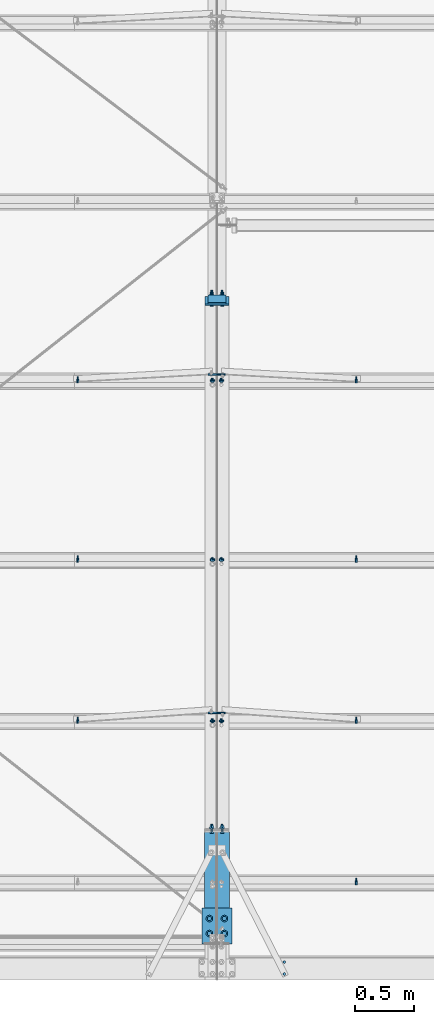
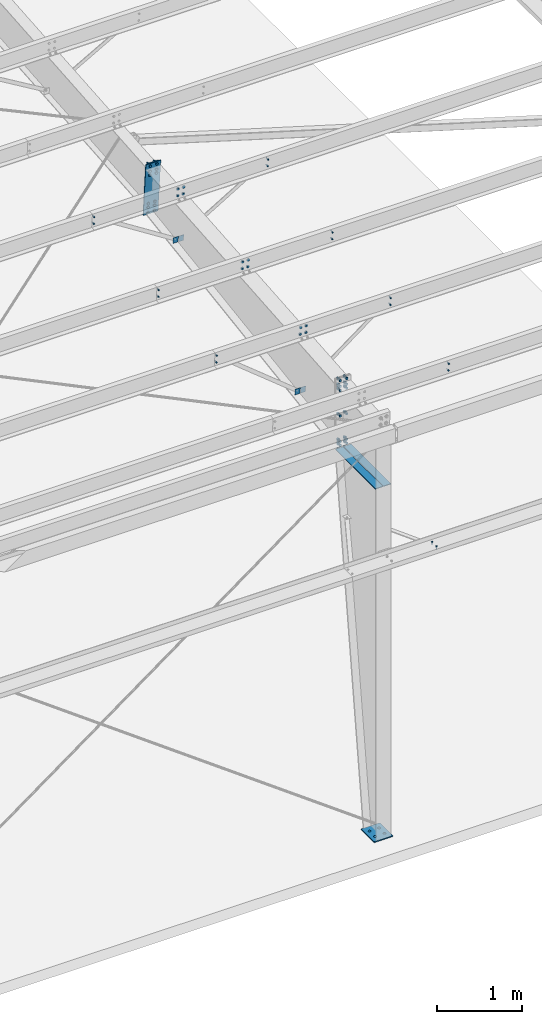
# One storey, part 102 of 185: 20 mechanical fasteners, 9 discrete accessories, 11 elements without a shape of their own.
"""IFC2X3 building model written with IfcOpenShell, lengths in millimetres."""

from ifc_helpers import new_model, si_unit, frame, origin_with_axes, origin_2d_with_axis, place, context, subcontext, project, spatial, polyline, rectangle, circle, outline, extrude, source, transform, mapped, material, type_object, element, aggregate, save


model = new_model("IFC2X3")

# Units and contexts
model_context = context("Model", 3, precision=1e-05, world=origin_with_axes())
body_context = subcontext(model_context, "Body", "Model", "MODEL_VIEW")
ifc_project = project(units=[si_unit("LENGTHUNIT", "METRE", prefix="MILLI"), si_unit("AREAUNIT", "SQUARE_METRE"), si_unit("VOLUMEUNIT", "CUBIC_METRE"), si_unit("MASSUNIT", "GRAM", prefix="KILO"), si_unit("TIMEUNIT", "SECOND"), si_unit("PLANEANGLEUNIT", "RADIAN"), si_unit("SOLIDANGLEUNIT", "STERADIAN"), si_unit("THERMODYNAMICTEMPERATUREUNIT", "DEGREE_CELSIUS"), si_unit("LUMINOUSINTENSITYUNIT", "LUMEN")], contexts=[model_context])

# Site, building, storey
site_placement = place(None, origin_with_axes())
site = spatial("IfcSite", under=ifc_project, at=site_placement, Name="Undefined", CompositionType="ELEMENT")
building_placement = place(site_placement, origin_with_axes())
building = spatial("IfcBuilding", under=site, at=building_placement, Name="Undefined", CompositionType="ELEMENT")
storey_placement = place(building_placement, origin_with_axes())
storey = spatial("IfcBuildingStorey", under=building, at=storey_placement, Name="Undefined", CompositionType="ELEMENT", Elevation=0.0)

# Assembly, discrete accessories
assembly_1_placement = place(storey_placement, origin_with_axes())
assembly_1 = element("IfcElementAssembly", 1, at=assembly_1_placement, inside=storey, Name="Steel Assembly", AssemblyPlace="NOTDEFINED", PredefinedType="RIGID_FRAME")
ifc_material_1 = material(Name="STEEL/55")
discrete_accessory_type_1 = type_object("IfcDiscreteAccessoryType", Name="Stiff")
discrete_accessory_1_placement = place(assembly_1_placement, frame((37773.76875, 312.674, 5067.48165112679), z_axis=(-1.0, 0.0, 0.0), x_axis=(0.0, 1.0, 0.0)))
discrete_accessory_1 = element("IfcDiscreteAccessory", 2, at=discrete_accessory_1_placement, type_object=discrete_accessory_type_1, material=ifc_material_1, Name="Stiff", ObjectType="FL3/8\"X4\"", context=body_context, shape_type="SweptSolid", body=[
    extrude(rectangle(XDim=9.525, YDim=101.6, at=origin_2d_with_axis()), frame((939.799999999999, 0.0, 0.0), z_axis=(-1.0, 0.0, 0.0), x_axis=(0.0, -1.0, 0.0)), (0.0, 0.0, 1.0), 939.8),
])
discrete_accessory_2_placement = place(assembly_1_placement, frame((37664.23125, 312.674, 5067.48165112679), z_axis=(-1.0, 0.0, 0.0), x_axis=(0.0, 1.0, 0.0)))
discrete_accessory_2 = element("IfcDiscreteAccessory", 3, at=discrete_accessory_2_placement, type_object=discrete_accessory_type_1, material=ifc_material_1, Name="Stiff", ObjectType="FL3/8\"X4\"", context=body_context, shape_type="SweptSolid", body=[
    extrude(rectangle(XDim=9.525, YDim=101.6, at=origin_2d_with_axis()), frame((939.799999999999, 0.0, 0.0), z_axis=(-1.0, 0.0, 0.0), x_axis=(0.0, -1.0, 0.0)), (0.0, 0.0, 1.0), 939.8),
])

# Assembly, mechanical fastener
assembly_2_placement = place(storey_placement, origin_with_axes())
assembly_2 = element("IfcElementAssembly", 4, at=assembly_2_placement, inside=storey, Name="Steel Assembly", AssemblyPlace="NOTDEFINED", PredefinedType="RIGID_FRAME")
ifc_material_2 = material(Name="Undefined")
discrete_accessory_type_2 = type_object("IfcDiscreteAccessoryType", Name="Bolt assembly")
shared_shape_1 = source(origin_with_axes(), body_context, "Body", "SweptSolid", [
    extrude(circle(Radius=7.14374971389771, at=origin_2d_with_axis()), frame((0.0, -1.59000001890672, 0.0), z_axis=(0.0, 1.0, 0.0), x_axis=(1.0, 0.0, 0.0)), (0.0, 0.0, 1.0), 3.3),
    extrude(circle(Radius=13.4937496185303, at=origin_2d_with_axis()), frame((0.0, -5.5587500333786, 0.0), z_axis=(0.0, 1.0, 0.0), x_axis=(1.0, 0.0, 0.0)), (0.0, 0.0, 1.0), 4.0),
    extrude(circle(Radius=22.2250003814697, at=origin_2d_with_axis()), frame((0.0, 1.5900000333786, 0.0), z_axis=(0.0, 1.0, 0.0), x_axis=(1.0, 0.0, 0.0)), (0.0, 0.0, 1.0), 7.9),
    extrude(outline(polyline([(12.8316099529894, 0.0), (6.4158049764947, 11.1125001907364), (-6.4158049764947, 11.1125001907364), (-12.8316099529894, 0.0), (-6.4158049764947, -11.1125001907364), (6.4158049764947, -11.1125001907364), (12.8316099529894, 0.0)])), frame((0.0, 9.5275000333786, 0.0), z_axis=(0.0, 1.0, 0.0), x_axis=(1.0, 0.0, 0.0)), (0.0, 0.0, 1.0), 12.3),
])
mechanical_fastener_1_placement = place(assembly_2_placement, frame((37757.1, 2185.7239412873, 6227.16757842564), z_axis=(1.0, 0.0, 0.0), x_axis=(0.0, 0.0830454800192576, -0.996545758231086)))
mechanical_fastener_1 = element("IfcMechanicalFastener", 5, at=mechanical_fastener_1_placement, type_object=discrete_accessory_type_2, material=ifc_material_2, Name="Bolt assembly", NominalDiameter=12.6999998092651, NominalLength=38.0999984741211, context=body_context, shape_type="MappedRepresentation", body=[
    mapped(shared_shape_1, transform((0.0, 0.0, 0.0))),
    mapped(shared_shape_1, transform((101.599998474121, 0.0, 0.0))),
])
aggregate(assembly_2, [mechanical_fastener_1])

assembly_3_placement = place(storey_placement, origin_with_axes())
assembly_3 = element("IfcElementAssembly", 6, at=assembly_3_placement, inside=storey, Name="Steel Assembly", AssemblyPlace="NOTDEFINED", PredefinedType="RIGID_FRAME")
mechanical_fastener_2_placement = place(assembly_3_placement, frame((37680.9, 2185.7239412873, 6227.16757842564), z_axis=(1.0, 0.0, 0.0), x_axis=(0.0, 0.0830454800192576, -0.996545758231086)))
mechanical_fastener_2 = element("IfcMechanicalFastener", 7, at=mechanical_fastener_2_placement, type_object=discrete_accessory_type_2, material=ifc_material_2, Name="Bolt assembly", NominalDiameter=12.6999998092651, NominalLength=38.0999984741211, context=body_context, shape_type="MappedRepresentation", body=[
    mapped(shared_shape_1, transform((0.0, 0.0, 0.0))),
    mapped(shared_shape_1, transform((101.599998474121, 0.0, 0.0))),
])

assembly_4_placement = place(storey_placement, origin_with_axes())
assembly_4 = element("IfcElementAssembly", 8, at=assembly_4_placement, inside=storey, Name="Steel Assembly", AssemblyPlace="NOTDEFINED", PredefinedType="RIGID_FRAME")
mechanical_fastener_3_placement = place(assembly_4_placement, frame((37757.1, 3552.58610327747, 6341.07275882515), z_axis=(1.0, 0.0, 0.0), x_axis=(0.0, 0.0830454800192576, -0.996545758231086)))
mechanical_fastener_3 = element("IfcMechanicalFastener", 9, at=mechanical_fastener_3_placement, type_object=discrete_accessory_type_2, material=ifc_material_2, Name="Bolt assembly", NominalDiameter=12.6999998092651, NominalLength=38.0999984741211, context=body_context, shape_type="MappedRepresentation", body=[
    mapped(shared_shape_1, transform((0.0, 0.0, 0.0))),
    mapped(shared_shape_1, transform((101.599998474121, 0.0, 0.0))),
])
aggregate(assembly_4, [mechanical_fastener_3])

assembly_5_placement = place(storey_placement, origin_with_axes())
assembly_5 = element("IfcElementAssembly", 10, at=assembly_5_placement, inside=storey, Name="Steel Assembly", AssemblyPlace="NOTDEFINED", PredefinedType="RIGID_FRAME")
mechanical_fastener_4_placement = place(assembly_5_placement, frame((37680.9, 3552.58610327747, 6341.07275882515), z_axis=(1.0, 0.0, 0.0), x_axis=(0.0, 0.0830454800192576, -0.996545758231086)))
mechanical_fastener_4 = element("IfcMechanicalFastener", 11, at=mechanical_fastener_4_placement, type_object=discrete_accessory_type_2, material=ifc_material_2, Name="Bolt assembly", NominalDiameter=12.6999998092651, NominalLength=38.0999984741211, context=body_context, shape_type="MappedRepresentation", body=[
    mapped(shared_shape_1, transform((0.0, 0.0, 0.0))),
    mapped(shared_shape_1, transform((101.599998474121, 0.0, 0.0))),
])

assembly_6_placement = place(storey_placement, origin_with_axes())
assembly_6 = element("IfcElementAssembly", 12, at=assembly_6_placement, inside=storey, Name="Steel Assembly", AssemblyPlace="NOTDEFINED", PredefinedType="RIGID_FRAME")
mechanical_fastener_5_placement = place(assembly_6_placement, frame((37757.1, 5071.321838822, 6467.63407037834), z_axis=(1.0, 0.0, 0.0), x_axis=(0.0, 0.0830454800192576, -0.996545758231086)))
mechanical_fastener_5 = element("IfcMechanicalFastener", 13, at=mechanical_fastener_5_placement, type_object=discrete_accessory_type_2, material=ifc_material_2, Name="Bolt assembly", NominalDiameter=12.6999998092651, NominalLength=38.0999984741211, context=body_context, shape_type="MappedRepresentation", body=[
    mapped(shared_shape_1, transform((0.0, 0.0, 0.0))),
    mapped(shared_shape_1, transform((101.599998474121, 0.0, 0.0))),
])
aggregate(assembly_6, [mechanical_fastener_5])

assembly_7_placement = place(storey_placement, origin_with_axes())
assembly_7 = element("IfcElementAssembly", 14, at=assembly_7_placement, inside=storey, Name="Steel Assembly", AssemblyPlace="NOTDEFINED", PredefinedType="RIGID_FRAME")
mechanical_fastener_6_placement = place(assembly_7_placement, frame((37680.9, 5071.321838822, 6467.63407037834), z_axis=(1.0, 0.0, 0.0), x_axis=(0.0, 0.0830454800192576, -0.996545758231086)))
mechanical_fastener_6 = element("IfcMechanicalFastener", 15, at=mechanical_fastener_6_placement, type_object=discrete_accessory_type_2, material=ifc_material_2, Name="Bolt assembly", NominalDiameter=12.6999998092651, NominalLength=38.0999984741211, context=body_context, shape_type="MappedRepresentation", body=[
    mapped(shared_shape_1, transform((0.0, 0.0, 0.0))),
    mapped(shared_shape_1, transform((101.599998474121, 0.0, 0.0))),
])

# Discrete accessory
discrete_accessory_type_3 = type_object("IfcDiscreteAccessoryType", Name="Base Plate")
discrete_accessory_3_placement = place(assembly_1_placement, frame((37719.0, 304.8, 7.93749999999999), z_axis=(1.0, 0.0, 0.0), x_axis=(0.0, 1.0, 0.0)))
discrete_accessory_3 = element("IfcDiscreteAccessory", 16, at=discrete_accessory_3_placement, type_object=discrete_accessory_type_3, material=ifc_material_1, Name="Base Plate", ObjectType="FL5/8\"X10\"", context=body_context, shape_type="SweptSolid", body=[
    extrude(rectangle(XDim=15.875, YDim=254.0, at=origin_2d_with_axis()), frame((304.909695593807, 0.0, 0.0), z_axis=(-1.0, 0.0, 0.0), x_axis=(0.0, -1.0, 0.0)), (0.0, 0.0, 1.0), 304.9),
])

# Assembly, discrete accessories
assembly_8_placement = place(storey_placement, origin_with_axes())
assembly_8 = element("IfcElementAssembly", 17, at=assembly_8_placement, inside=storey, Name="Steel Assembly", AssemblyPlace="NOTDEFINED", PredefinedType="RIGID_FRAME")
discrete_accessory_type_4 = type_object("IfcDiscreteAccessoryType", Name="FLANGE BRACE FLIP")
discrete_accessory_4_placement = place(assembly_8_placement, frame((37721.381, 5133.65232140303, 5699.10123572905), z_axis=(0.0, -0.0830454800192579, 0.996545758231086), x_axis=(1.0, 0.0, 0.0)))
discrete_accessory_4 = element("IfcDiscreteAccessory", 18, at=discrete_accessory_4_placement, type_object=discrete_accessory_type_4, material=ifc_material_1, Name="FLANGE BRACE FLIP", ObjectType="PL1/8\"X2 3/4\"", context=body_context, shape_type="SweptSolid", body=[
    extrude(rectangle(XDim=3.416, YDim=85.725, at=origin_2d_with_axis()), frame((69.8499999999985, 0.0, 0.0), z_axis=(-1.0, 0.0, 0.0), x_axis=(0.0, -1.0, 0.0)), (0.0, 0.0, 1.0), 69.8),
])
discrete_accessory_5_placement = place(assembly_8_placement, frame((37716.619, 5133.65232140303, 5699.10123572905), z_axis=(0.0, -0.0830454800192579, 0.996545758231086), x_axis=(-1.0, 0.0, 0.0)))
discrete_accessory_5 = element("IfcDiscreteAccessory", 19, at=discrete_accessory_5_placement, type_object=discrete_accessory_type_4, material=ifc_material_1, Name="FLANGE BRACE FLIP", ObjectType="PL1/8\"X2 3/4\"", context=body_context, shape_type="SweptSolid", body=[
    extrude(rectangle(XDim=3.416, YDim=85.725, at=origin_2d_with_axis()), frame((69.8499999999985, 0.0, 0.0), z_axis=(-1.0, 0.0, 0.0), x_axis=(0.0, -1.0, 0.0)), (0.0, 0.0, 1.0), 69.8),
])
discrete_accessory_6_placement = place(assembly_8_placement, frame((37721.381, 2264.17630960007, 5265.17211501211), z_axis=(0.0, -0.0830454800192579, 0.996545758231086), x_axis=(1.0, 0.0, 0.0)))
discrete_accessory_6 = element("IfcDiscreteAccessory", 20, at=discrete_accessory_6_placement, type_object=discrete_accessory_type_4, material=ifc_material_1, Name="FLANGE BRACE FLIP", ObjectType="PL1/8\"X2 3/4\"", context=body_context, shape_type="SweptSolid", body=[
    extrude(rectangle(XDim=3.416, YDim=85.725, at=origin_2d_with_axis()), frame((69.8499999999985, 0.0, 0.0), z_axis=(-1.0, 0.0, 0.0), x_axis=(0.0, -1.0, 0.0)), (0.0, 0.0, 1.0), 69.8),
])
discrete_accessory_7_placement = place(assembly_8_placement, frame((37716.619, 2264.17630960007, 5265.17211501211), z_axis=(0.0, -0.0830454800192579, 0.996545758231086), x_axis=(-1.0, 0.0, 0.0)))
discrete_accessory_7 = element("IfcDiscreteAccessory", 21, at=discrete_accessory_7_placement, type_object=discrete_accessory_type_4, material=ifc_material_1, Name="FLANGE BRACE FLIP", ObjectType="PL1/8\"X2 3/4\"", context=body_context, shape_type="SweptSolid", body=[
    extrude(rectangle(XDim=3.416, YDim=85.725, at=origin_2d_with_axis()), frame((69.8499999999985, 0.0, 0.0), z_axis=(-1.0, 0.0, 0.0), x_axis=(0.0, -1.0, 0.0)), (0.0, 0.0, 1.0), 69.8),
])

# Assembly, mechanical fastener
assembly_9_placement = place(storey_placement, origin_with_axes())
assembly_9 = element("IfcElementAssembly", 22, at=assembly_9_placement, inside=storey, Name="Steel Assembly", AssemblyPlace="NOTDEFINED", PredefinedType="RIGID_FRAME")
shared_shape_2 = source(origin_with_axes(), body_context, "Body", "SweptSolid", [
    extrude(circle(Radius=7.14374971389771, at=origin_2d_with_axis()), frame((0.0, -1.4900000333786, 0.0), z_axis=(0.0, 1.0, 0.0), x_axis=(1.0, 0.0, 0.0)), (0.0, 0.0, 1.0), 3.2),
    extrude(circle(Radius=7.14374971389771, at=origin_2d_with_axis()), frame((0.0, -1.4900000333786, 0.0), z_axis=(0.0, 1.0, 0.0), x_axis=(1.0, 0.0, 0.0)), (0.0, 0.0, 1.0), 3.2),
    extrude(outline(polyline([(10.9985221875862, 0.0), (5.4992610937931, 9.52499961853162), (-5.4992610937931, 9.52499961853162), (-10.9985221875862, 0.0), (-5.4992610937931, -9.52499961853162), (5.4992610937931, -9.52499961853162), (10.9985221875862, 0.0)])), frame((0.0, -11.1149996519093, 0.0), z_axis=(0.0, 1.0, 0.0), x_axis=(1.0, 0.0, 0.0)), (0.0, 0.0, 1.0), 9.5),
    extrude(circle(Radius=6.34999990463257, at=origin_2d_with_axis()), frame((0.0, -1.59000001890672, 0.0), z_axis=(0.0, 1.0, 0.0), x_axis=(1.0, 0.0, 0.0)), (0.0, 0.0, 1.0), 38.1),
    extrude(outline(polyline([(12.8316099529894, 0.0), (6.4158049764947, 11.1125001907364), (-6.4158049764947, 11.1125001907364), (-12.8316099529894, 0.0), (-6.4158049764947, -11.1125001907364), (6.4158049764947, -11.1125001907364), (12.8316099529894, 0.0)])), frame((0.0, 1.5900000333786, 0.0), z_axis=(0.0, 1.0, 0.0), x_axis=(1.0, 0.0, 0.0)), (0.0, 0.0, 1.0), 12.3),
])
mechanical_fastener_7_placement = place(assembly_9_placement, frame((38290.5, 50.8, 4165.6), z_axis=(-1.0, 0.0, 0.0), x_axis=(0.0, 1.0, 0.0)))
mechanical_fastener_7 = element("IfcMechanicalFastener", 23, at=mechanical_fastener_7_placement, type_object=discrete_accessory_type_2, material=ifc_material_2, Name="Bolt assembly", NominalDiameter=12.6999998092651, NominalLength=38.0999984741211, context=body_context, shape_type="MappedRepresentation", body=[
    mapped(shared_shape_2, transform((0.0, 0.0, 0.0))),
    mapped(shared_shape_2, transform((101.599998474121, 0.0, 0.0))),
])
aggregate(assembly_9, [mechanical_fastener_7])

assembly_10_placement = place(storey_placement, origin_with_axes())
assembly_10 = element("IfcElementAssembly", 24, at=assembly_10_placement, inside=storey, Name="Steel Assembly", AssemblyPlace="NOTDEFINED", PredefinedType="RIGID_FRAME")
mechanical_fastener_8_placement = place(assembly_10_placement, frame((38900.1, 818.861779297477, 6113.26239802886), z_axis=(1.0, 0.0, 0.0), x_axis=(0.0, 0.0830454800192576, -0.996545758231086)))
mechanical_fastener_8 = element("IfcMechanicalFastener", 25, at=mechanical_fastener_8_placement, type_object=discrete_accessory_type_2, material=ifc_material_2, Name="Bolt assembly", NominalDiameter=12.6999998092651, NominalLength=38.0999984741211, context=body_context, shape_type="MappedRepresentation", body=[
    mapped(shared_shape_2, transform((0.0, 0.0, 0.0))),
    mapped(shared_shape_2, transform((101.599998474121, 0.0, 0.0))),
])
aggregate(assembly_10, [mechanical_fastener_8])

# Mechanical fastener
mechanical_fastener_9_placement = place(assembly_3_placement, frame((38900.1, 2185.7239412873, 6227.16757842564), z_axis=(1.0, 0.0, 0.0), x_axis=(0.0, 0.0830454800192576, -0.996545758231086)))
mechanical_fastener_9 = element("IfcMechanicalFastener", 26, at=mechanical_fastener_9_placement, type_object=discrete_accessory_type_2, material=ifc_material_2, Name="Bolt assembly", NominalDiameter=12.6999998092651, NominalLength=38.0999984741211, context=body_context, shape_type="MappedRepresentation", body=[
    mapped(shared_shape_2, transform((0.0, 0.0, 0.0))),
    mapped(shared_shape_2, transform((101.599998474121, 0.0, 0.0))),
])

mechanical_fastener_10_placement = place(assembly_3_placement, frame((36537.9, 2185.7239412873, 6227.16757842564), z_axis=(1.0, 0.0, 0.0), x_axis=(0.0, 0.0830454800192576, -0.996545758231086)))
mechanical_fastener_10 = element("IfcMechanicalFastener", 27, at=mechanical_fastener_10_placement, type_object=discrete_accessory_type_2, material=ifc_material_2, Name="Bolt assembly", NominalDiameter=12.6999998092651, NominalLength=38.0999984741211, context=body_context, shape_type="MappedRepresentation", body=[
    mapped(shared_shape_2, transform((0.0, 0.0, 0.0))),
    mapped(shared_shape_2, transform((101.599998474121, 0.0, 0.0))),
])

aggregate(assembly_3, [mechanical_fastener_2, mechanical_fastener_9, mechanical_fastener_10])

shared_shape_3 = source(origin_with_axes(), body_context, "Body", "SweptSolid", [
    extrude(circle(Radius=10.3187494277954, at=origin_2d_with_axis()), frame((0.0, -0.1, 0.0), z_axis=(0.0, 1.0, 0.0), x_axis=(1.0, 0.0, 0.0)), (0.0, 0.0, 1.0), 15.8),
    extrude(circle(Radius=10.3187494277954, at=origin_2d_with_axis()), frame((0.0, -15.775, 0.0), z_axis=(0.0, 1.0, 0.0), x_axis=(1.0, 0.0, 0.0)), (0.0, 0.0, 1.0), 15.9),
    extrude(outline(polyline([(18.3308710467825, 0.0), (9.16543552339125, 15.8750000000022), (-9.16543552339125, 15.8750000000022), (-18.3308710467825, 0.0), (-9.16543552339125, -15.8750000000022), (9.16543552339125, -15.8750000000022), (18.3308710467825, 0.0)])), frame((0.0, -27.78125, 0.0), z_axis=(0.0, 1.0, 0.0), x_axis=(1.0, 0.0, 0.0)), (0.0, 0.0, 1.0), 11.9),
    extrude(circle(Radius=9.52499961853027, at=origin_2d_with_axis()), frame((0.0, -15.8750000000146, 0.0), z_axis=(0.0, 1.0, 0.0), x_axis=(1.0, 0.0, 0.0)), (0.0, 0.0, 1.0), 69.8),
    extrude(circle(Radius=22.2250003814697, at=origin_2d_with_axis()), frame((0.0, 15.7480000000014, 0.0), z_axis=(0.0, 1.0, 0.0), x_axis=(1.0, 0.0, 0.0)), (0.0, 0.0, 1.0), 7.9),
    extrude(outline(polyline([(18.3308710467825, 0.0), (9.16543552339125, 15.8750000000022), (-9.16543552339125, 15.8750000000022), (-18.3308710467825, 0.0), (-9.16543552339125, -15.8750000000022), (9.16543552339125, -15.8750000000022), (18.3308710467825, 0.0)])), frame((0.0, 23.6855000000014, 0.0), z_axis=(0.0, 1.0, 0.0), x_axis=(1.0, 0.0, 0.0)), (0.0, 0.0, 1.0), 19.0),
])
mechanical_fastener_11_placement = place(assembly_1_placement, frame((37719.0, 1268.349, 5531.15865002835), z_axis=(1.0, 0.0, 0.0), x_axis=(0.0, 0.0, -1.0)))
mechanical_fastener_11 = element("IfcMechanicalFastener", 28, at=mechanical_fastener_11_placement, type_object=discrete_accessory_type_2, material=ifc_material_2, Name="Bolt assembly", NominalDiameter=19.0499992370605, NominalLength=69.8499984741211, context=body_context, shape_type="MappedRepresentation", body=[
    mapped(shared_shape_3, transform((0.0, 0.0, -44.4500007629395))),
    mapped(shared_shape_3, transform((0.0, 0.0, 44.4500007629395))),
])

mechanical_fastener_12_placement = place(assembly_1_placement, frame((37719.0, 1268.349, 5024.74615112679), z_axis=(-1.0, 0.0, 0.0), x_axis=(0.0, 0.0, 1.0)))
mechanical_fastener_12 = element("IfcMechanicalFastener", 29, at=mechanical_fastener_12_placement, type_object=discrete_accessory_type_2, material=ifc_material_2, Name="Bolt assembly", NominalDiameter=19.0499992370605, NominalLength=69.8499984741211, context=body_context, shape_type="MappedRepresentation", body=[
    mapped(shared_shape_3, transform((0.0, 0.0, -44.4500007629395))),
    mapped(shared_shape_3, transform((82.5500030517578, 0.0, -44.4500007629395))),
    mapped(shared_shape_3, transform((139.699996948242, 0.0, -44.4500007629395))),
    mapped(shared_shape_3, transform((0.0, 0.0, 44.4500007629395))),
    mapped(shared_shape_3, transform((82.5500030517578, 0.0, 44.4500007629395))),
    mapped(shared_shape_3, transform((139.699996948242, 0.0, 44.4500007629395))),
])

mechanical_fastener_13_placement = place(assembly_1_placement, frame((37719.0, 1268.349, 6037.57115112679), z_axis=(1.0, 0.0, 0.0), x_axis=(0.0, 0.0, -1.0)))
mechanical_fastener_13 = element("IfcMechanicalFastener", 30, at=mechanical_fastener_13_placement, type_object=discrete_accessory_type_2, material=ifc_material_2, Name="Bolt assembly", NominalDiameter=19.0499992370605, NominalLength=69.8499984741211, context=body_context, shape_type="MappedRepresentation", body=[
    mapped(shared_shape_3, transform((0.0, 0.0, -44.4500007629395))),
    mapped(shared_shape_3, transform((82.5500030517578, 0.0, -44.4500007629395))),
    mapped(shared_shape_3, transform((139.699996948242, 0.0, -44.4500007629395))),
    mapped(shared_shape_3, transform((0.0, 0.0, 44.4500007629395))),
    mapped(shared_shape_3, transform((82.5500030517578, 0.0, 44.4500007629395))),
    mapped(shared_shape_3, transform((139.699996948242, 0.0, 44.4500007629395))),
])

shared_shape_4 = source(origin_with_axes(), body_context, "Body", "SweptSolid", [
    extrude(circle(Radius=7.14374971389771, at=origin_2d_with_axis()), frame((0.0, -1.4900000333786, 0.0), z_axis=(0.0, 1.0, 0.0), x_axis=(1.0, 0.0, 0.0)), (0.0, 0.0, 1.0), 3.2),
    extrude(circle(Radius=7.14374971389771, at=origin_2d_with_axis()), frame((0.0, -1.69000003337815, 0.0), z_axis=(0.0, 1.0, 0.0), x_axis=(1.0, 0.0, 0.0)), (0.0, 0.0, 1.0), 3.3),
    extrude(outline(polyline([(10.9985221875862, 0.0), (5.4992610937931, 9.52499961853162), (-5.4992610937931, 9.52499961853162), (-10.9985221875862, 0.0), (-5.4992610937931, -9.52499961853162), (5.4992610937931, -9.52499961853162), (10.9985221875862, 0.0)])), frame((0.0, -11.1149996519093, 0.0), z_axis=(0.0, 1.0, 0.0), x_axis=(1.0, 0.0, 0.0)), (0.0, 0.0, 1.0), 9.5),
    extrude(circle(Radius=6.34999990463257, at=origin_2d_with_axis()), frame((0.0, -1.59000001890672, 0.0), z_axis=(0.0, 1.0, 0.0), x_axis=(1.0, 0.0, 0.0)), (0.0, 0.0, 1.0), 38.1),
    extrude(outline(polyline([(12.8316099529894, 0.0), (6.4158049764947, 11.1125001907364), (-6.4158049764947, 11.1125001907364), (-12.8316099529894, 0.0), (-6.4158049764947, -11.1125001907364), (6.4158049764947, -11.1125001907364), (12.8316099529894, 0.0)])), frame((0.0, 1.5900000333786, 0.0), z_axis=(0.0, 1.0, 0.0), x_axis=(1.0, 0.0, 0.0)), (0.0, 0.0, 1.0), 12.3),
])
mechanical_fastener_14_placement = place(assembly_5_placement, frame((38900.1, 3552.58610327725, 6341.07275882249), z_axis=(1.0, 0.0, 0.0), x_axis=(0.0, 0.0830454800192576, -0.996545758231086)))
mechanical_fastener_14 = element("IfcMechanicalFastener", 31, at=mechanical_fastener_14_placement, type_object=discrete_accessory_type_2, material=ifc_material_2, Name="Bolt assembly", NominalDiameter=12.6999998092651, NominalLength=38.0999984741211, context=body_context, shape_type="MappedRepresentation", body=[
    mapped(shared_shape_4, transform((0.0, 0.0, 0.0))),
    mapped(shared_shape_4, transform((101.599998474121, 0.0, 0.0))),
])

mechanical_fastener_15_placement = place(assembly_5_placement, frame((36537.9, 3552.58610327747, 6341.07275882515), z_axis=(1.0, 0.0, 0.0), x_axis=(0.0, 0.0830454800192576, -0.996545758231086)))
mechanical_fastener_15 = element("IfcMechanicalFastener", 32, at=mechanical_fastener_15_placement, type_object=discrete_accessory_type_2, material=ifc_material_2, Name="Bolt assembly", NominalDiameter=12.6999998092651, NominalLength=38.0999984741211, context=body_context, shape_type="MappedRepresentation", body=[
    mapped(shared_shape_4, transform((0.0, 0.0, 0.0))),
    mapped(shared_shape_4, transform((101.599998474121, 0.0, 0.0))),
])

aggregate(assembly_5, [mechanical_fastener_4, mechanical_fastener_14, mechanical_fastener_15])

mechanical_fastener_16_placement = place(assembly_7_placement, frame((38900.1, 5071.32183882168, 6467.63407037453), z_axis=(1.0, 0.0, 0.0), x_axis=(0.0, 0.0830454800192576, -0.996545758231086)))
mechanical_fastener_16 = element("IfcMechanicalFastener", 33, at=mechanical_fastener_16_placement, type_object=discrete_accessory_type_2, material=ifc_material_2, Name="Bolt assembly", NominalDiameter=12.6999998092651, NominalLength=38.0999984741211, context=body_context, shape_type="MappedRepresentation", body=[
    mapped(shared_shape_4, transform((0.0, 0.0, 0.0))),
    mapped(shared_shape_4, transform((101.599998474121, 0.0, 0.0))),
])

mechanical_fastener_17_placement = place(assembly_7_placement, frame((36537.9, 5071.321838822, 6467.63407037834), z_axis=(1.0, 0.0, 0.0), x_axis=(0.0, 0.0830454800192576, -0.996545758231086)))
mechanical_fastener_17 = element("IfcMechanicalFastener", 34, at=mechanical_fastener_17_placement, type_object=discrete_accessory_type_2, material=ifc_material_2, Name="Bolt assembly", NominalDiameter=12.6999998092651, NominalLength=38.0999984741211, context=body_context, shape_type="MappedRepresentation", body=[
    mapped(shared_shape_4, transform((0.0, 0.0, 0.0))),
    mapped(shared_shape_4, transform((101.599998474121, 0.0, 0.0))),
])

aggregate(assembly_7, [mechanical_fastener_6, mechanical_fastener_16, mechanical_fastener_17])

# Assembly, discrete accessory
assembly_11_placement = place(storey_placement, origin_with_axes())
assembly_11 = element("IfcElementAssembly", 35, at=assembly_11_placement, inside=storey, Name="Steel Assembly", AssemblyPlace="NOTDEFINED", PredefinedType="RIGID_FRAME")
discrete_accessory_type_5 = type_object("IfcDiscreteAccessoryType", Name="Start Splice Plate")
discrete_accessory_8_placement = place(assembly_11_placement, frame((37719.0, 5736.98021246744, 6441.84972626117), z_axis=(1.0, 0.0, 0.0), x_axis=(0.0, 0.0830454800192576, -0.996545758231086)))
discrete_accessory_8 = element("IfcDiscreteAccessory", 36, at=discrete_accessory_8_placement, type_object=discrete_accessory_type_5, material=ifc_material_1, Name="Start Splice Plate", ObjectType="PL3/8\"X6\"", context=body_context, shape_type="SweptSolid", body=[
    extrude(rectangle(XDim=9.652, YDim=152.4, at=origin_2d_with_axis()), frame((768.349996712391, 0.0, 0.0), z_axis=(-1.0, 0.0, 0.0), x_axis=(0.0, -1.0, 0.0)), (0.0, 0.0, 1.0), 768.3),
])
aggregate(assembly_11, [discrete_accessory_8])

# Discrete accessory
discrete_accessory_type_6 = type_object("IfcDiscreteAccessoryType", Name="End Splice Plate")
discrete_accessory_9_placement = place(assembly_8_placement, frame((37719.0, 5725.84281707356, 6440.9216099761), z_axis=(1.0, 0.0, 0.0), x_axis=(0.0, 0.0830454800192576, -0.996545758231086)))
discrete_accessory_9 = element("IfcDiscreteAccessory", 37, at=discrete_accessory_9_placement, type_object=discrete_accessory_type_6, material=ifc_material_1, Name="End Splice Plate", ObjectType="FL1/2\"X8\"", context=body_context, shape_type="SweptSolid", body=[
    extrude(rectangle(XDim=12.7, YDim=203.2, at=origin_2d_with_axis()), frame((768.349996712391, 0.0, 0.0), z_axis=(-1.0, 0.0, 0.0), x_axis=(0.0, -1.0, 0.0)), (0.0, 0.0, 1.0), 768.3),
])

# Mechanical fastener
ifc_material_3 = material(Name="7990")
shared_shape_5 = source(origin_with_axes(), body_context, "Body", "SweptSolid", [
    extrude(circle(Radius=18.2562503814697, at=origin_2d_with_axis()), frame((0.0, -15.8750000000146, 0.0), z_axis=(0.0, 1.0, 0.0), x_axis=(1.0, 0.0, 0.0)), (0.0, 0.0, 1.0), 16.0),
    extrude(circle(Radius=28.575, at=origin_2d_with_axis()), frame((0.0, 0.0, 0.0), z_axis=(0.0, 1.0, 0.0), x_axis=(1.0, 0.0, 0.0)), (0.0, 0.0, 1.0), 10.5),
    extrude(outline(polyline([(30.4292459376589, 0.0), (15.2146229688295, 26.3525000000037), (-15.2146229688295, 26.3525000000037), (-30.4292459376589, 0.0), (-15.2146229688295, -26.3525000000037), (15.2146229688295, -26.3525000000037), (30.4292459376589, 0.0)])), frame((0.0, 10.4775, 0.0), z_axis=(0.0, 1.0, 0.0), x_axis=(1.0, 0.0, 0.0)), (0.0, 0.0, 1.0), 21.0),
])
mechanical_fastener_18_placement = place(assembly_1_placement, frame((37719.0, 393.700001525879, -1.06581410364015e-14), z_axis=(-1.0, 0.0, 0.0), x_axis=(0.0, 1.0, 0.0)))
mechanical_fastener_18 = element("IfcMechanicalFastener", 38, at=mechanical_fastener_18_placement, type_object=discrete_accessory_type_2, material=ifc_material_3, Name="Bolt assembly", NominalDiameter=31.75, NominalLength=15.875, context=body_context, shape_type="MappedRepresentation", body=[
    mapped(shared_shape_5, transform((0.0, 0.0, -63.5))),
    mapped(shared_shape_5, transform((127.0, 0.0, -63.5))),
    mapped(shared_shape_5, transform((0.0, 0.0, 63.5))),
    mapped(shared_shape_5, transform((127.0, 0.0, 63.5))),
])

aggregate(assembly_1, [mechanical_fastener_11, mechanical_fastener_12, mechanical_fastener_13, mechanical_fastener_18, discrete_accessory_1, discrete_accessory_2, discrete_accessory_3])

shared_shape_6 = source(origin_with_axes(), body_context, "Body", "SweptSolid", [
    extrude(circle(Radius=10.3187494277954, at=origin_2d_with_axis()), frame((0.0, -0.1, 0.0), z_axis=(0.0, 1.0, 0.0), x_axis=(1.0, 0.0, 0.0)), (0.0, 0.0, 1.0), 9.8),
    extrude(circle(Radius=10.3187494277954, at=origin_2d_with_axis()), frame((0.0, -12.5999999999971, 0.0), z_axis=(0.0, 1.0, 0.0), x_axis=(1.0, 0.0, 0.0)), (0.0, 0.0, 1.0), 12.7),
    extrude(outline(polyline([(18.3308710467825, 0.0), (9.16543552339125, 15.8750000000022), (-9.16543552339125, 15.8750000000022), (-18.3308710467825, 0.0), (-9.16543552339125, -15.8750000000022), (9.16543552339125, -15.8750000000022), (18.3308710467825, 0.0)])), frame((0.0, -24.6062499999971, 0.0), z_axis=(0.0, 1.0, 0.0), x_axis=(1.0, 0.0, 0.0)), (0.0, 0.0, 1.0), 11.9),
    extrude(circle(Radius=9.52499961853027, at=origin_2d_with_axis()), frame((0.0, -12.6999999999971, 0.0), z_axis=(0.0, 1.0, 0.0), x_axis=(1.0, 0.0, 0.0)), (0.0, 0.0, 1.0), 69.8),
    extrude(circle(Radius=22.2250003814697, at=origin_2d_with_axis()), frame((0.0, 9.65200009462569, 0.0), z_axis=(0.0, 1.0, 0.0), x_axis=(1.0, 0.0, 0.0)), (0.0, 0.0, 1.0), 7.9),
    extrude(outline(polyline([(18.3308710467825, 0.0), (9.16543552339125, 15.8750000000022), (-9.16543552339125, 15.8750000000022), (-18.3308710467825, 0.0), (-9.16543552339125, -15.8750000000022), (9.16543552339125, -15.8750000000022), (18.3308710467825, 0.0)])), frame((0.0, 17.5895000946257, 0.0), z_axis=(0.0, 1.0, 0.0), x_axis=(1.0, 0.0, 0.0)), (0.0, 0.0, 1.0), 19.0),
])
mechanical_fastener_19_placement = place(assembly_8_placement, frame((37719.0, 5793.342183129, 5707.39334435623), z_axis=(-1.0, 0.0, 0.0), x_axis=(0.0, -0.0830454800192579, 0.996545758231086)))
mechanical_fastener_19 = element("IfcMechanicalFastener", 39, at=mechanical_fastener_19_placement, type_object=discrete_accessory_type_2, material=ifc_material_2, Name="Bolt assembly", NominalDiameter=19.0499992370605, NominalLength=69.8499984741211, context=body_context, shape_type="MappedRepresentation", body=[
    mapped(shared_shape_6, transform((0.0, 0.0, -44.4500007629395))),
    mapped(shared_shape_6, transform((79.3750000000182, 6.18456397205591e-11, -44.4500007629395))),
    mapped(shared_shape_6, transform((136.524993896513, 1.0550138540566e-10, -44.4500007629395))),
    mapped(shared_shape_6, transform((0.0, 0.0, 44.4500007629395))),
    mapped(shared_shape_6, transform((79.3750000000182, 6.18456397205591e-11, 44.4500007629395))),
    mapped(shared_shape_6, transform((136.524993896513, 1.0550138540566e-10, 44.4500007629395))),
])

mechanical_fastener_20_placement = place(assembly_8_placement, frame((37719.0, 5734.80757653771, 6409.80862204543), z_axis=(1.0, 0.0, 0.0), x_axis=(0.0, 0.0830454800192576, -0.996545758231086)))
mechanical_fastener_20 = element("IfcMechanicalFastener", 40, at=mechanical_fastener_20_placement, type_object=discrete_accessory_type_2, material=ifc_material_2, Name="Bolt assembly", NominalDiameter=19.0499992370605, NominalLength=69.8499984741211, context=body_context, shape_type="MappedRepresentation", body=[
    mapped(shared_shape_6, transform((0.0, 0.0, -44.4500007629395))),
    mapped(shared_shape_6, transform((79.3750000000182, 6.18456397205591e-11, -44.4500007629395))),
    mapped(shared_shape_6, transform((136.524993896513, 1.0550138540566e-10, -44.4500007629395))),
    mapped(shared_shape_6, transform((0.0, 0.0, 44.4500007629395))),
    mapped(shared_shape_6, transform((79.3750000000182, 6.18456397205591e-11, 44.4500007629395))),
    mapped(shared_shape_6, transform((136.524993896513, 1.0550138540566e-10, 44.4500007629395))),
])

aggregate(assembly_8, [discrete_accessory_4, discrete_accessory_5, discrete_accessory_6, discrete_accessory_7, mechanical_fastener_19, mechanical_fastener_20, discrete_accessory_9])

save(model, "model.ifc")
